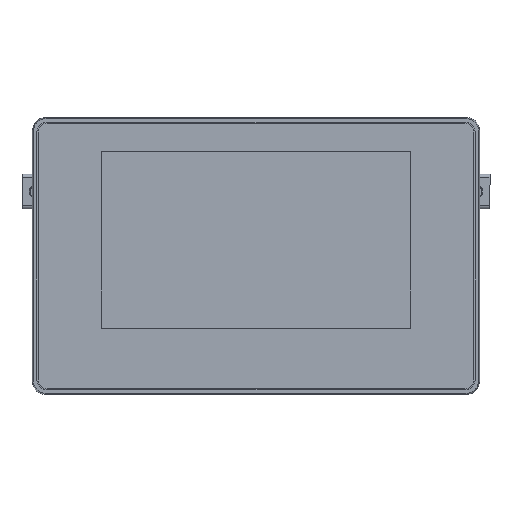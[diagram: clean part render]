
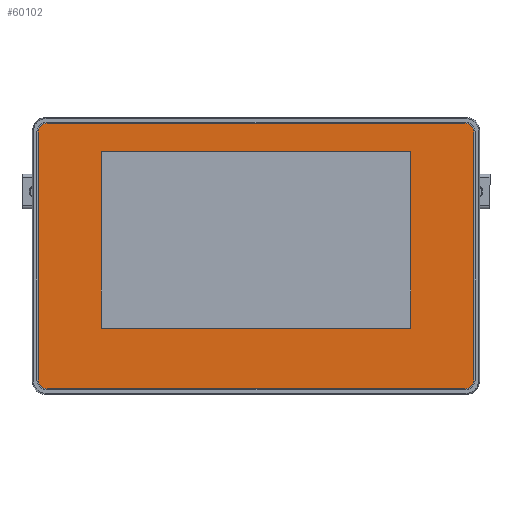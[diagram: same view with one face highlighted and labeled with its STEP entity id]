
A CAD part, top view. The second image highlights one B-rep face of the part: STEP entity #60102.
In plain terms, the highlighted planar face has unit normal (0, 0, 1).
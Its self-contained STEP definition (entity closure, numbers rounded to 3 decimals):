
#2389=FACE_BOUND('',#19787,.T.);
#3229=LINE('',#109795,#9875);
#3230=LINE('',#109799,#9876);
#3231=LINE('',#109803,#9877);
#3232=LINE('',#109806,#9878);
#3233=LINE('',#109809,#9879);
#3234=LINE('',#109811,#9880);
#3235=LINE('',#109813,#9881);
#3236=LINE('',#109814,#9882);
#9875=VECTOR('',#70093,129.95);
#9876=VECTOR('',#70096,76.95);
#9877=VECTOR('',#70099,129.95);
#9878=VECTOR('',#70102,76.95);
#9879=VECTOR('',#70103,54.96);
#9880=VECTOR('',#70104,96.14);
#9881=VECTOR('',#70105,54.96);
#9882=VECTOR('',#70106,96.14);
#16395=FACE_OUTER_BOUND('',#19786,.T.);
#19786=EDGE_LOOP('',(#41670,#41671,#41672,#41673,#41674,#41675,#41676,#41677));
#19787=EDGE_LOOP('',(#41678,#41679,#41680,#41681));
#23177=CIRCLE('',#63857,2.8);
#23178=CIRCLE('',#63858,2.8);
#23179=CIRCLE('',#63859,2.8);
#23180=CIRCLE('',#63860,2.8);
#25031=VERTEX_POINT('',#109791);
#25032=VERTEX_POINT('',#109792);
#25033=VERTEX_POINT('',#109794);
#25034=VERTEX_POINT('',#109796);
#25035=VERTEX_POINT('',#109798);
#25036=VERTEX_POINT('',#109800);
#25037=VERTEX_POINT('',#109802);
#25038=VERTEX_POINT('',#109804);
#25039=VERTEX_POINT('',#109807);
#25040=VERTEX_POINT('',#109808);
#25041=VERTEX_POINT('',#109810);
#25042=VERTEX_POINT('',#109812);
#31391=EDGE_CURVE('',#25031,#25032,#23177,.T.);
#31392=EDGE_CURVE('',#25033,#25031,#3229,.T.);
#31393=EDGE_CURVE('',#25034,#25033,#23178,.T.);
#31394=EDGE_CURVE('',#25035,#25034,#3230,.T.);
#31395=EDGE_CURVE('',#25036,#25035,#23179,.T.);
#31396=EDGE_CURVE('',#25037,#25036,#3231,.T.);
#31397=EDGE_CURVE('',#25038,#25037,#23180,.T.);
#31398=EDGE_CURVE('',#25032,#25038,#3232,.T.);
#31399=EDGE_CURVE('',#25039,#25040,#3233,.T.);
#31400=EDGE_CURVE('',#25040,#25041,#3234,.T.);
#31401=EDGE_CURVE('',#25041,#25042,#3235,.T.);
#31402=EDGE_CURVE('',#25042,#25039,#3236,.T.);
#41670=ORIENTED_EDGE('',*,*,#31391,.F.);
#41671=ORIENTED_EDGE('',*,*,#31392,.F.);
#41672=ORIENTED_EDGE('',*,*,#31393,.F.);
#41673=ORIENTED_EDGE('',*,*,#31394,.F.);
#41674=ORIENTED_EDGE('',*,*,#31395,.F.);
#41675=ORIENTED_EDGE('',*,*,#31396,.F.);
#41676=ORIENTED_EDGE('',*,*,#31397,.F.);
#41677=ORIENTED_EDGE('',*,*,#31398,.F.);
#41678=ORIENTED_EDGE('',*,*,#31399,.T.);
#41679=ORIENTED_EDGE('',*,*,#31400,.T.);
#41680=ORIENTED_EDGE('',*,*,#31401,.T.);
#41681=ORIENTED_EDGE('',*,*,#31402,.T.);
#57602=PLANE('',#63856);
#60102=ADVANCED_FACE('',(#16395,#2389),#57602,.T.);
#63856=AXIS2_PLACEMENT_3D('',#109790,#70089,#70090);
#63857=AXIS2_PLACEMENT_3D('',#109793,#70091,#70092);
#63858=AXIS2_PLACEMENT_3D('',#109797,#70094,#70095);
#63859=AXIS2_PLACEMENT_3D('',#109801,#70097,#70098);
#63860=AXIS2_PLACEMENT_3D('',#109805,#70100,#70101);
#70089=DIRECTION('center_axis',(0.,0.,1.));
#70090=DIRECTION('ref_axis',(1.,0.,0.));
#70091=DIRECTION('center_axis',(0.,0.,-1.));
#70092=DIRECTION('ref_axis',(0.,1.,0.));
#70093=DIRECTION('',(1.,0.,0.));
#70094=DIRECTION('center_axis',(0.,0.,-1.));
#70095=DIRECTION('ref_axis',(-1.,0.,0.));
#70096=DIRECTION('',(0.,1.,0.));
#70097=DIRECTION('center_axis',(0.,0.,-1.));
#70098=DIRECTION('ref_axis',(0.,-1.,0.));
#70099=DIRECTION('',(-1.,0.,0.));
#70100=DIRECTION('center_axis',(0.,0.,-1.));
#70101=DIRECTION('ref_axis',(1.,0.,0.));
#70102=DIRECTION('',(0.,-1.,0.));
#70103=DIRECTION('',(0.,1.,0.));
#70104=DIRECTION('',(1.,0.,0.));
#70105=DIRECTION('',(0.,-1.,0.));
#70106=DIRECTION('',(-1.,0.,0.));
#109790=CARTESIAN_POINT('Origin',(0.,0.,2.85));
#109791=CARTESIAN_POINT('',(64.975,41.275,2.85));
#109792=CARTESIAN_POINT('',(67.775,38.475,2.85));
#109793=CARTESIAN_POINT('Origin',(64.975,38.475,2.85));
#109794=CARTESIAN_POINT('',(-64.975,41.275,2.85));
#109795=CARTESIAN_POINT('',(-64.975,41.275,2.85));
#109796=CARTESIAN_POINT('',(-67.775,38.475,2.85));
#109797=CARTESIAN_POINT('Origin',(-64.975,38.475,2.85));
#109798=CARTESIAN_POINT('',(-67.775,-38.475,2.85));
#109799=CARTESIAN_POINT('',(-67.775,-38.475,2.85));
#109800=CARTESIAN_POINT('',(-64.975,-41.275,2.85));
#109801=CARTESIAN_POINT('Origin',(-64.975,-38.475,2.85));
#109802=CARTESIAN_POINT('',(64.975,-41.275,2.85));
#109803=CARTESIAN_POINT('',(64.975,-41.275,2.85));
#109804=CARTESIAN_POINT('',(67.775,-38.475,2.85));
#109805=CARTESIAN_POINT('Origin',(64.975,-38.475,2.85));
#109806=CARTESIAN_POINT('',(67.775,38.475,2.85));
#109807=CARTESIAN_POINT('',(-48.07,-22.445,2.85));
#109808=CARTESIAN_POINT('',(-48.07,32.515,2.85));
#109809=CARTESIAN_POINT('',(-48.07,-22.445,2.85));
#109810=CARTESIAN_POINT('',(48.07,32.515,2.85));
#109811=CARTESIAN_POINT('',(-48.07,32.515,2.85));
#109812=CARTESIAN_POINT('',(48.07,-22.445,2.85));
#109813=CARTESIAN_POINT('',(48.07,32.515,2.85));
#109814=CARTESIAN_POINT('',(48.07,-22.445,2.85));
